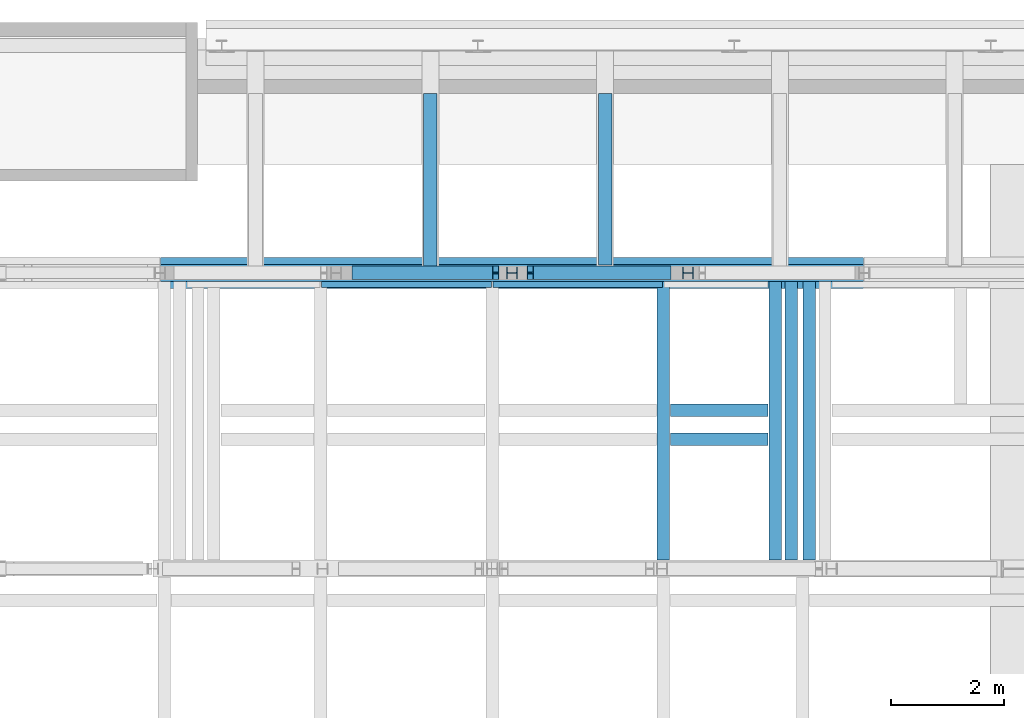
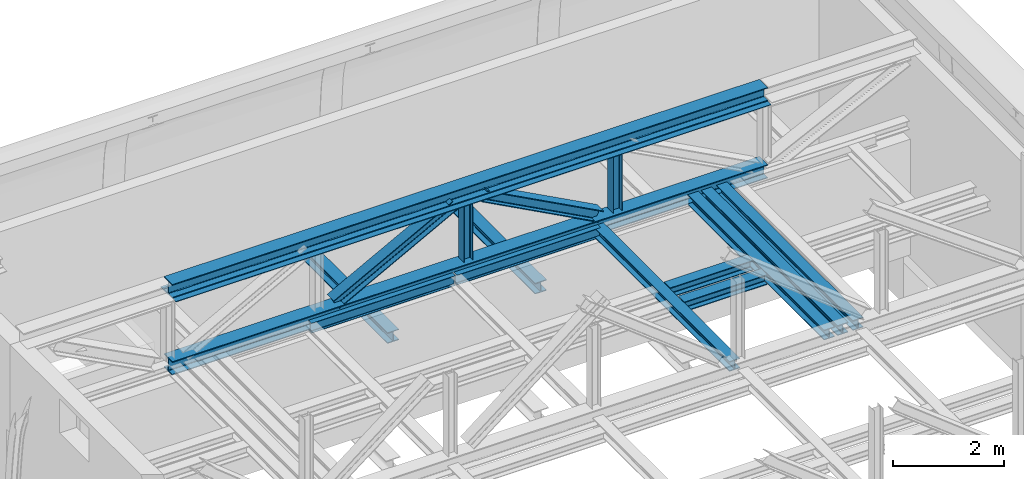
# One storey, part 22 of 29: 16 beams.
"""IFC2X3 building model written with IfcOpenShell, lengths in millimetres."""

from ifc_helpers import new_model, entity, si_unit, converted_unit, derived_unit, direction, frame, frame_2d, origin, place, context, subcontext, project, spatial, polyline, circle_curve, parameter, trimmed, segment, composite_curve, rectangle, i_section, outline, extrude, source, transform, mapped, material, material_list, type_object, type_shapes, element, save


model = new_model("IFC2X3")

# Units and contexts
model_context = context("Model", 3, precision=0.01, world=origin(), true_north=direction((6.12303176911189e-17, 1.0)))
body_context = subcontext(model_context, "Body", "Model", "MODEL_VIEW")
ifc_project = project(units=[si_unit("LENGTHUNIT", "METRE", prefix="MILLI"), si_unit("AREAUNIT", "SQUARE_METRE", prefix="MILLI"), si_unit("VOLUMEUNIT", "CUBIC_METRE"), converted_unit("PLANEANGLEUNIT", "DEGREE", entity("IfcRatioMeasure", 0.0174532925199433), si_unit("PLANEANGLEUNIT", "RADIAN"), dimensions=[0, 0, 0, 0, 0, 0, 0]), si_unit("MASSUNIT", "GRAM", prefix="KILO"), derived_unit("MASSDENSITYUNIT", [(si_unit("MASSUNIT", "GRAM", prefix="KILO"), 1), (si_unit("LENGTHUNIT", "METRE"), -3)]), derived_unit("MOMENTOFINERTIAUNIT", [(si_unit("LENGTHUNIT", "METRE"), 4)]), si_unit("TIMEUNIT", "SECOND"), si_unit("FREQUENCYUNIT", "HERTZ"), si_unit("THERMODYNAMICTEMPERATUREUNIT", "DEGREE_CELSIUS"), derived_unit("THERMALTRANSMITTANCEUNIT", [(si_unit("MASSUNIT", "GRAM", prefix="KILO"), 1), (si_unit("THERMODYNAMICTEMPERATUREUNIT", "KELVIN"), -1), (si_unit("TIMEUNIT", "SECOND"), -3)]), derived_unit("VOLUMETRICFLOWRATEUNIT", [(si_unit("LENGTHUNIT", "METRE"), 3), (si_unit("TIMEUNIT", "SECOND"), -1)]), si_unit("ELECTRICCURRENTUNIT", "AMPERE"), si_unit("ELECTRICVOLTAGEUNIT", "VOLT"), si_unit("POWERUNIT", "WATT"), si_unit("FORCEUNIT", "NEWTON", prefix="KILO"), si_unit("ILLUMINANCEUNIT", "LUX"), si_unit("LUMINOUSFLUXUNIT", "LUMEN"), si_unit("LUMINOUSINTENSITYUNIT", "CANDELA"), derived_unit("USERDEFINED", [(si_unit("MASSUNIT", "GRAM", prefix="KILO"), -1), (si_unit("LENGTHUNIT", "METRE"), -2), (si_unit("TIMEUNIT", "SECOND"), 3), (si_unit("LUMINOUSFLUXUNIT", "LUMEN"), 1)]), derived_unit("LINEARVELOCITYUNIT", [(si_unit("LENGTHUNIT", "METRE"), 1), (si_unit("TIMEUNIT", "SECOND"), -1)]), si_unit("PRESSUREUNIT", "PASCAL"), derived_unit("USERDEFINED", [(si_unit("LENGTHUNIT", "METRE"), -2), (si_unit("MASSUNIT", "GRAM", prefix="KILO"), 1), (si_unit("TIMEUNIT", "SECOND"), -2)]), derived_unit("LINEARFORCEUNIT", [(si_unit("MASSUNIT", "GRAM", prefix="KILO"), 1), (si_unit("LENGTHUNIT", "METRE"), 1), (si_unit("TIMEUNIT", "SECOND"), -2), (si_unit("LENGTHUNIT", "METRE"), -1)]), derived_unit("PLANARFORCEUNIT", [(si_unit("MASSUNIT", "GRAM", prefix="KILO"), 1), (si_unit("LENGTHUNIT", "METRE"), 1), (si_unit("TIMEUNIT", "SECOND"), -2), (si_unit("LENGTHUNIT", "METRE"), -2)])], contexts=[model_context])

# Site, building, storey
site_placement = place(None, origin())
site = spatial("IfcSite", under=ifc_project, at=site_placement, Name="Theater aan de Parade", CompositionType="ELEMENT")
building_placement = place(site_placement, origin())
building = spatial("IfcBuilding", under=site, at=building_placement, Name="Theater aan de Parade", CompositionType="ELEMENT")
storey_placement = place(building_placement, frame((0.0, 0.0, 20300.0)))
storey = spatial("IfcBuildingStorey", under=building, at=storey_placement, Name="05 vijfde verdieping", CompositionType="ELEMENT", Elevation=20300.0)

# Beams
ifc_material_1 = material(Name="00_PBT_MAT_staal_S355")
beam_type_1 = type_object("IfcBeamType", Name="28_PBT_SF_staal_H-profiel:S355_HE220B", PredefinedType="NOTDEFINED")
beam_1_placement = place(storey_placement, frame((79535.461881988, 40060.0, 0.0), z_axis=(0.0, 0.0, 1.0), x_axis=(0.0, 1.0, 0.0)))
element("IfcBeam", 1, at=beam_1_placement, inside=storey, type_object=beam_type_1, material=ifc_material_1, Name="28_PBT_SF_staal_H-profiel:S355_HE220B", ObjectType="28_PBT_SF_staal_H-profiel:S355_HE220B", context=body_context, shape_type="SweptSolid", body=[
    extrude(outline(composite_curve([segment(polyline([(94.0, -110.0), (110.0, -110.0)]), True, "CONTINUOUS"), segment(polyline([(110.0, -110.0), (110.0, 110.0)]), True, "CONTINUOUS"), segment(polyline([(110.0, 110.0), (94.0, 110.0)]), True, "CONTINUOUS"), segment(polyline([(94.0, 110.0), (94.0, 22.7500000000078)]), True, "CONTINUOUS"), segment(trimmed(circle_curve(frame_2d((76.0, 22.7500000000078), x_axis=(1.0, 0.0)), 17.9999999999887), [parameter(269.999999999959)], [parameter(0.0)], True, "PARAMETER"), False, "CONTINUOUS"), segment(polyline([(76.0, 4.74999999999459), (-76.0, 4.74999999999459)]), True, "CONTINUOUS"), segment(trimmed(circle_curve(frame_2d((-76.0, 22.7500000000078), x_axis=(0.0, -1.0)), 17.9999999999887), [parameter(269.999999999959)], [parameter(0.0)], True, "PARAMETER"), False, "CONTINUOUS"), segment(polyline([(-94.0, 22.7500000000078), (-94.0, 110.0)]), True, "CONTINUOUS"), segment(polyline([(-94.0, 110.0), (-110.0, 110.0)]), True, "CONTINUOUS"), segment(polyline([(-110.0, 110.0), (-110.0, -110.0)]), True, "CONTINUOUS"), segment(polyline([(-110.0, -110.0), (-94.0, -110.0)]), True, "CONTINUOUS"), segment(polyline([(-94.0, -110.0), (-94.0, -22.7499999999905)]), True, "CONTINUOUS"), segment(trimmed(circle_curve(frame_2d((-76.0, -22.7499999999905), x_axis=(-1.0, 0.0)), 17.9999999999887), [parameter(269.999999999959)], [parameter(0.0)], True, "PARAMETER"), False, "CONTINUOUS"), segment(polyline([(-76.0, -4.74999999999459), (76.0, -4.74999999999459)]), True, "CONTINUOUS"), segment(trimmed(circle_curve(frame_2d((76.0, -22.7499999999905), x_axis=(0.0, 1.0)), 17.9999999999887), [parameter(269.999999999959)], [parameter(0.0)], True, "PARAMETER"), False, "CONTINUOUS"), segment(polyline([(94.0, -22.7499999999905), (94.0, -110.0)]), True, "CONTINUOUS")], self_intersect=False)), frame((0.0, 0.0, 2360.0), z_axis=(1.0, 0.0, 0.0), x_axis=(0.0, 0.0, -1.0)), (0.0, 0.0, 1.0), 4925.00000000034),
])
beam_2_placement = place(storey_placement, frame((81790.0, 40060.0, 0.0), z_axis=(0.0, 0.0, 1.0), x_axis=(0.0, 1.0, 0.0)))
element("IfcBeam", 2, at=beam_2_placement, inside=storey, type_object=beam_type_1, material=ifc_material_1, Name="28_PBT_SF_staal_H-profiel:S355_HE220B", ObjectType="28_PBT_SF_staal_H-profiel:S355_HE220B", context=body_context, shape_type="SweptSolid", body=[
    extrude(outline(composite_curve([segment(polyline([(94.0, -110.0), (110.0, -110.0)]), True, "CONTINUOUS"), segment(polyline([(110.0, -110.0), (110.0, 110.0)]), True, "CONTINUOUS"), segment(polyline([(110.0, 110.0), (94.0, 110.0)]), True, "CONTINUOUS"), segment(polyline([(94.0, 110.0), (94.0, 22.7500000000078)]), True, "CONTINUOUS"), segment(trimmed(circle_curve(frame_2d((76.0, 22.7500000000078), x_axis=(1.0, 0.0)), 17.9999999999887), [parameter(269.999999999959)], [parameter(0.0)], True, "PARAMETER"), False, "CONTINUOUS"), segment(polyline([(76.0, 4.74999999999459), (-76.0, 4.74999999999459)]), True, "CONTINUOUS"), segment(trimmed(circle_curve(frame_2d((-76.0, 22.7500000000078), x_axis=(0.0, -1.0)), 17.9999999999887), [parameter(269.999999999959)], [parameter(0.0)], True, "PARAMETER"), False, "CONTINUOUS"), segment(polyline([(-94.0, 22.7500000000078), (-94.0, 110.0)]), True, "CONTINUOUS"), segment(polyline([(-94.0, 110.0), (-110.0, 110.0)]), True, "CONTINUOUS"), segment(polyline([(-110.0, 110.0), (-110.0, -110.0)]), True, "CONTINUOUS"), segment(polyline([(-110.0, -110.0), (-94.0, -110.0)]), True, "CONTINUOUS"), segment(polyline([(-94.0, -110.0), (-94.0, -22.7499999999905)]), True, "CONTINUOUS"), segment(trimmed(circle_curve(frame_2d((-76.0, -22.7499999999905), x_axis=(-1.0, 0.0)), 17.9999999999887), [parameter(269.999999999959)], [parameter(0.0)], True, "PARAMETER"), False, "CONTINUOUS"), segment(polyline([(-76.0, -4.74999999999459), (76.0, -4.74999999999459)]), True, "CONTINUOUS"), segment(trimmed(circle_curve(frame_2d((76.0, -22.7499999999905), x_axis=(0.0, 1.0)), 17.9999999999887), [parameter(269.999999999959)], [parameter(0.0)], True, "PARAMETER"), False, "CONTINUOUS"), segment(polyline([(94.0, -22.7499999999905), (94.0, -110.0)]), True, "CONTINUOUS")], self_intersect=False)), frame((0.0, 0.0, 2360.0), z_axis=(1.0, 0.0, 0.0), x_axis=(0.0, 0.0, -1.0)), (0.0, 0.0, 1.0), 4925.00000000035),
])
beam_3_placement = place(storey_placement, frame((81510.0, 42712.5000000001, 0.0), z_axis=(0.0, 0.0, 1.0), x_axis=(-1.0, 0.0, 0.0)))
element("IfcBeam", 3, at=beam_3_placement, inside=storey, type_object=beam_type_1, material=ifc_material_1, Name="28_PBT_SF_staal_H-profiel:S355_HE220B", ObjectType="28_PBT_SF_staal_H-profiel:S355_HE220B", context=body_context, shape_type="SweptSolid", body=[
    extrude(outline(composite_curve([segment(polyline([(94.0, -110.0), (110.0, -110.0)]), True, "CONTINUOUS"), segment(polyline([(110.0, -110.0), (110.0, 110.0)]), True, "CONTINUOUS"), segment(polyline([(110.0, 110.0), (94.0, 110.0)]), True, "CONTINUOUS"), segment(polyline([(94.0, 110.0), (94.0, 22.7500000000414)]), True, "CONTINUOUS"), segment(trimmed(circle_curve(frame_2d((76.0, 22.7500000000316), x_axis=(1.0, 0.0)), 17.9999999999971), [parameter(269.999999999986)], [parameter(0.0)], True, "PARAMETER"), False, "CONTINUOUS"), segment(polyline([(76.0, 4.7500000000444), (-76.0, 4.74999999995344)]), True, "CONTINUOUS"), segment(trimmed(circle_curve(frame_2d((-76.0, 22.7499999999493), x_axis=(0.0, -1.0)), 17.9999999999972), [parameter(269.999999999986)], [parameter(0.0)], True, "PARAMETER"), False, "CONTINUOUS"), segment(polyline([(-94.0, 22.7499999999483), (-94.0, 110.0)]), True, "CONTINUOUS"), segment(polyline([(-94.0, 110.0), (-110.0, 110.0)]), True, "CONTINUOUS"), segment(polyline([(-110.0, 110.0), (-110.0, -110.0)]), True, "CONTINUOUS"), segment(polyline([(-110.0, -110.0), (-94.0, -110.0)]), True, "CONTINUOUS"), segment(polyline([(-94.0, -110.0), (-94.0, -22.7500000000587)]), True, "CONTINUOUS"), segment(trimmed(circle_curve(frame_2d((-76.0, -22.750000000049), x_axis=(-1.0, 0.0)), 17.9999999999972), [parameter(269.999999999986)], [parameter(0.0)], True, "PARAMETER"), False, "CONTINUOUS"), segment(polyline([(-76.0, -4.75000000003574), (76.0, -4.7499999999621)]), True, "CONTINUOUS"), segment(trimmed(circle_curve(frame_2d((76.0, -22.7499999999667), x_axis=(0.0, 1.0)), 17.9999999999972), [parameter(269.999999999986)], [parameter(0.0)], True, "PARAMETER"), False, "CONTINUOUS"), segment(polyline([(94.0, -22.7499999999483), (94.0, -110.0)]), True, "CONTINUOUS")], self_intersect=False)), frame((122.699999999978, 0.0, 2360.0), z_axis=(1.0, 0.0, 0.0), x_axis=(0.0, 0.0, -1.0)), (0.0, 0.0, 1.0), 1729.13811801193),
])
beam_4_placement = place(storey_placement, frame((81510.0, 42198.4998000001, 0.0), z_axis=(0.0, 0.0, 1.0), x_axis=(-1.0, 0.0, 0.0)))
element("IfcBeam", 4, at=beam_4_placement, inside=storey, type_object=beam_type_1, material=ifc_material_1, Name="28_PBT_SF_staal_H-profiel:S355_HE220B", ObjectType="28_PBT_SF_staal_H-profiel:S355_HE220B", context=body_context, shape_type="SweptSolid", body=[
    extrude(outline(composite_curve([segment(polyline([(94.0, -110.0), (110.0, -110.0)]), True, "CONTINUOUS"), segment(polyline([(110.0, -110.0), (110.0, 110.0)]), True, "CONTINUOUS"), segment(polyline([(110.0, 110.0), (94.0, 110.0)]), True, "CONTINUOUS"), segment(polyline([(94.0, 110.0), (94.0, 22.7500000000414)]), True, "CONTINUOUS"), segment(trimmed(circle_curve(frame_2d((76.0, 22.7500000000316), x_axis=(1.0, 0.0)), 17.9999999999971), [parameter(269.999999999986)], [parameter(0.0)], True, "PARAMETER"), False, "CONTINUOUS"), segment(polyline([(76.0, 4.7500000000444), (-76.0, 4.74999999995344)]), True, "CONTINUOUS"), segment(trimmed(circle_curve(frame_2d((-76.0, 22.7499999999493), x_axis=(0.0, -1.0)), 17.9999999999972), [parameter(269.999999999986)], [parameter(0.0)], True, "PARAMETER"), False, "CONTINUOUS"), segment(polyline([(-94.0, 22.7499999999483), (-94.0, 110.0)]), True, "CONTINUOUS"), segment(polyline([(-94.0, 110.0), (-110.0, 110.0)]), True, "CONTINUOUS"), segment(polyline([(-110.0, 110.0), (-110.0, -110.0)]), True, "CONTINUOUS"), segment(polyline([(-110.0, -110.0), (-94.0, -110.0)]), True, "CONTINUOUS"), segment(polyline([(-94.0, -110.0), (-94.0, -22.7500000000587)]), True, "CONTINUOUS"), segment(trimmed(circle_curve(frame_2d((-76.0, -22.750000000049), x_axis=(-1.0, 0.0)), 17.9999999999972), [parameter(269.999999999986)], [parameter(0.0)], True, "PARAMETER"), False, "CONTINUOUS"), segment(polyline([(-76.0, -4.75000000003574), (76.0, -4.7499999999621)]), True, "CONTINUOUS"), segment(trimmed(circle_curve(frame_2d((76.0, -22.7499999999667), x_axis=(0.0, 1.0)), 17.9999999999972), [parameter(269.999999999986)], [parameter(0.0)], True, "PARAMETER"), False, "CONTINUOUS"), segment(polyline([(94.0, -22.7499999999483), (94.0, -110.0)]), True, "CONTINUOUS")], self_intersect=False)), frame((122.699999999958, 0.0, 2360.0), z_axis=(1.0, 0.0, 0.0), x_axis=(0.0, 0.0, -1.0)), (0.0, 0.0, 1.0), 1729.13811801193),
])
beam_5_placement = place(storey_placement, frame((81510.0, 40060.0, 0.0), z_axis=(0.0, 0.0, 1.0), x_axis=(0.0, 1.0, 0.0)))
element("IfcBeam", 5, at=beam_5_placement, inside=storey, type_object=beam_type_1, material=ifc_material_1, Name="28_PBT_SF_staal_H-profiel:S355_HE220B", ObjectType="28_PBT_SF_staal_H-profiel:S355_HE220B", context=body_context, shape_type="SweptSolid", body=[
    extrude(outline(composite_curve([segment(polyline([(94.0, -110.0), (110.0, -110.0)]), True, "CONTINUOUS"), segment(polyline([(110.0, -110.0), (110.0, 110.0)]), True, "CONTINUOUS"), segment(polyline([(110.0, 110.0), (94.0, 110.0)]), True, "CONTINUOUS"), segment(polyline([(94.0, 110.0), (94.0, 22.7499999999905)]), True, "CONTINUOUS"), segment(trimmed(circle_curve(frame_2d((76.0, 22.7499999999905), x_axis=(1.0, 0.0)), 17.9999999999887), [parameter(269.999999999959)], [parameter(0.0)], True, "PARAMETER"), False, "CONTINUOUS"), segment(polyline([(76.0, 4.74999999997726), (-76.0, 4.74999999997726)]), True, "CONTINUOUS"), segment(trimmed(circle_curve(frame_2d((-76.0, 22.7499999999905), x_axis=(0.0, -1.0)), 17.9999999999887), [parameter(269.999999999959)], [parameter(0.0)], True, "PARAMETER"), False, "CONTINUOUS"), segment(polyline([(-94.0, 22.7499999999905), (-94.0, 110.0)]), True, "CONTINUOUS"), segment(polyline([(-94.0, 110.0), (-110.0, 110.0)]), True, "CONTINUOUS"), segment(polyline([(-110.0, 110.0), (-110.0, -110.0)]), True, "CONTINUOUS"), segment(polyline([(-110.0, -110.0), (-94.0, -110.0)]), True, "CONTINUOUS"), segment(polyline([(-94.0, -110.0), (-94.0, -22.7500000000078)]), True, "CONTINUOUS"), segment(trimmed(circle_curve(frame_2d((-76.0, -22.7500000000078), x_axis=(-1.0, 0.0)), 17.9999999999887), [parameter(269.999999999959)], [parameter(0.0)], True, "PARAMETER"), False, "CONTINUOUS"), segment(polyline([(-76.0, -4.75000000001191), (76.0, -4.75000000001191)]), True, "CONTINUOUS"), segment(trimmed(circle_curve(frame_2d((76.0, -22.7500000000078), x_axis=(0.0, 1.0)), 17.9999999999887), [parameter(269.999999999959)], [parameter(0.0)], True, "PARAMETER"), False, "CONTINUOUS"), segment(polyline([(94.0, -22.7500000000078), (94.0, -110.0)]), True, "CONTINUOUS")], self_intersect=False)), frame((0.0, 0.0, 2360.0), z_axis=(1.0, 0.0, 0.0), x_axis=(0.0, 0.0, -1.0)), (0.0, 0.0, 1.0), 4925.00000000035),
])
beam_6_placement = place(storey_placement, frame((82110.0, 40060.0, 0.0), z_axis=(0.0, 0.0, 1.0), x_axis=(0.0, 1.0, 0.0)))
element("IfcBeam", 6, at=beam_6_placement, inside=storey, type_object=beam_type_1, material=ifc_material_1, Name="28_PBT_SF_staal_H-profiel:S355_HE220B", ObjectType="28_PBT_SF_staal_H-profiel:S355_HE220B", context=body_context, shape_type="SweptSolid", body=[
    extrude(outline(composite_curve([segment(polyline([(94.0, -110.0), (110.0, -110.0)]), True, "CONTINUOUS"), segment(polyline([(110.0, -110.0), (110.0, 110.0)]), True, "CONTINUOUS"), segment(polyline([(110.0, 110.0), (94.0, 110.0)]), True, "CONTINUOUS"), segment(polyline([(94.0, 110.0), (94.0, 22.7499999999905)]), True, "CONTINUOUS"), segment(trimmed(circle_curve(frame_2d((76.0, 22.7499999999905), x_axis=(1.0, 0.0)), 17.9999999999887), [parameter(269.999999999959)], [parameter(0.0)], True, "PARAMETER"), False, "CONTINUOUS"), segment(polyline([(76.0, 4.74999999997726), (-76.0, 4.74999999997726)]), True, "CONTINUOUS"), segment(trimmed(circle_curve(frame_2d((-76.0, 22.7499999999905), x_axis=(0.0, -1.0)), 17.9999999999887), [parameter(269.999999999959)], [parameter(0.0)], True, "PARAMETER"), False, "CONTINUOUS"), segment(polyline([(-94.0, 22.7499999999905), (-94.0, 110.0)]), True, "CONTINUOUS"), segment(polyline([(-94.0, 110.0), (-110.0, 110.0)]), True, "CONTINUOUS"), segment(polyline([(-110.0, 110.0), (-110.0, -110.0)]), True, "CONTINUOUS"), segment(polyline([(-110.0, -110.0), (-94.0, -110.0)]), True, "CONTINUOUS"), segment(polyline([(-94.0, -110.0), (-94.0, -22.7500000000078)]), True, "CONTINUOUS"), segment(trimmed(circle_curve(frame_2d((-76.0, -22.7500000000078), x_axis=(-1.0, 0.0)), 17.9999999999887), [parameter(269.999999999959)], [parameter(0.0)], True, "PARAMETER"), False, "CONTINUOUS"), segment(polyline([(-76.0, -4.75000000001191), (76.0, -4.75000000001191)]), True, "CONTINUOUS"), segment(trimmed(circle_curve(frame_2d((76.0, -22.7500000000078), x_axis=(0.0, 1.0)), 17.9999999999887), [parameter(269.999999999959)], [parameter(0.0)], True, "PARAMETER"), False, "CONTINUOUS"), segment(polyline([(94.0, -22.7500000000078), (94.0, -110.0)]), True, "CONTINUOUS")], self_intersect=False)), frame((0.0, 0.0, 2360.0), z_axis=(1.0, 0.0, 0.0), x_axis=(0.0, 0.0, -1.0)), (0.0, 0.0, 1.0), 4925.00000000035),
])
beam_type_2 = type_object("IfcBeamType", Name="28_PBT_SF_staal_H-profiel:S355_HE300B", PredefinedType="NOTDEFINED")
beam_7_placement = place(storey_placement, frame((70641.2561009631, 45135.0, 2400.0)))
element("IfcBeam", 7, at=beam_7_placement, inside=storey, type_object=beam_type_2, material=ifc_material_1, Name="28_PBT_SF_staal_H-profiel:S355_HE300B", ObjectType="28_PBT_SF_staal_H-profiel:S355_HE300B", context=body_context, shape_type="SweptSolid", body=[
    extrude(i_section(OverallWidth=300.000000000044, OverallDepth=300.000000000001, WebThickness=10.9999999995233, FlangeThickness=19.0, FilletRadius=26.9999999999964, at=frame_2d((-4.33431068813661e-12, -8.65441052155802e-12), x_axis=(0.0, 1.0))), frame((12.7000006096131, 0.0, 0.0), z_axis=(1.0, 0.0, 0.0), x_axis=(0.0, 0.0, -1.0)), (0.0, 0.0, 1.0), 12414.5999987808),
])
beam_type_3 = type_object("IfcBeamType", Name="28_PBT_SF_staal_H-profiel:S355_HE200A", PredefinedType="NOTDEFINED")
beam_8_placement = place(storey_placement, frame((76861.2561009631, 45135.0, 2400.0), z_axis=(1.0, 0.0, 0.0), x_axis=(0.0, 0.0, 1.0)))
element("IfcBeam", 8, at=beam_8_placement, inside=storey, type_object=beam_type_3, material=ifc_material_1, Name="28_PBT_SF_staal_H-profiel:S355_HE200A", ObjectType="28_PBT_SF_staal_H-profiel:S355_HE200A", context=body_context, shape_type="SweptSolid", body=[
    extrude(i_section(OverallWidth=199.999999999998, OverallDepth=190.0, WebThickness=6.49999999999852, FlangeThickness=9.99999999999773, FilletRadius=17.9999999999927, at=frame_2d((4.33431068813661e-12, 4.33431068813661e-12), x_axis=(0.0, 1.0))), frame((162.699999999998, 0.0, 0.0), z_axis=(1.0, 0.0, 0.0), x_axis=(0.0, 0.0, -1.0)), (0.0, 0.0, 1.0), 1300.24657066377),
])
beam_9_placement = place(storey_placement, frame((79971.2561009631, 45135.0, 2400.0), z_axis=(1.0, 0.0, 0.0), x_axis=(0.0, 0.0, 1.0)))
element("IfcBeam", 9, at=beam_9_placement, inside=storey, type_object=beam_type_3, material=ifc_material_1, Name="28_PBT_SF_staal_H-profiel:S355_HE200A", ObjectType="28_PBT_SF_staal_H-profiel:S355_HE200A", context=body_context, shape_type="SweptSolid", body=[
    extrude(i_section(OverallWidth=199.999999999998, OverallDepth=189.999999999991, WebThickness=6.49999999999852, FlangeThickness=9.99999999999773, FilletRadius=17.9999999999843, at=frame_2d((0.0, 4.33431068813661e-12), x_axis=(0.0, 1.0))), frame((162.699999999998, 0.0, 0.0), z_axis=(1.0, 0.0, 0.0), x_axis=(0.0, 0.0, -1.0)), (0.0, 0.0, 1.0), 1300.24657066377),
])
beam_type_4 = type_object("IfcBeamType", Name="28_PBT_SF_staal_H-profiel:S355_HE240B", PredefinedType="NOTDEFINED")
beam_10_placement = place(storey_placement, frame((76861.2561009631, 45135.0, 4062.5), z_axis=(0.471434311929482, 0.0, 0.88190117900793), x_axis=(0.88190117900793, 0.0, -0.471434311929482)))
element("IfcBeam", 10, at=beam_10_placement, inside=storey, type_object=beam_type_4, material=ifc_material_1, Name="28_PBT_SF_staal_H-profiel:S355_HE240B", ObjectType="28_PBT_SF_staal_H-profiel:S355_HE240B", context=body_context, shape_type="SweptSolid", body=[
    extrude(i_section(OverallWidth=239.999999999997, OverallDepth=239.999999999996, WebThickness=9.99999999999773, FlangeThickness=16.9999999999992, FilletRadius=21.0000000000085, at=frame_2d((1.91135995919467e-12, -8.66151594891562e-12), x_axis=(0.0, 1.0))), frame((362.510289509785, 0.0, 0.0), z_axis=(1.0, 0.0, 0.0), x_axis=(0.0, 0.0, -1.0)), (0.0, 0.0, 1.0), 2754.41443883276),
])
beam_11_placement = place(storey_placement, frame((73751.2561009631, 45135.0, 2400.0), z_axis=(-0.471434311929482, 0.0, 0.88190117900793), x_axis=(0.88190117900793, 0.0, 0.471434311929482)))
element("IfcBeam", 11, at=beam_11_placement, inside=storey, type_object=beam_type_4, material=ifc_material_1, Name="28_PBT_SF_staal_H-profiel:S355_HE240B", ObjectType="28_PBT_SF_staal_H-profiel:S355_HE240B", context=body_context, shape_type="SweptSolid", body=[
    extrude(i_section(OverallWidth=239.999999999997, OverallDepth=239.999999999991, WebThickness=9.99999999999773, FlangeThickness=16.9999999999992, FilletRadius=21.0000000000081, at=frame_2d((-5.86197757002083e-12, -8.66151594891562e-12), x_axis=(0.0, 1.0))), frame((389.407106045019, 0.0, 0.0), z_axis=(1.0, 0.0, 0.0), x_axis=(0.0, 0.0, -1.0)), (0.0, 0.0, 1.0), 2812.03857849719),
])
beam_12_placement = place(storey_placement, frame((78505.4885583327, 48302.0, 0.0), z_axis=(0.0, 0.0, 1.0), x_axis=(0.0, -1.0, 0.0)))
element("IfcBeam", 12, at=beam_12_placement, inside=storey, type_object=beam_type_4, material=ifc_material_1, Name="28_PBT_SF_staal_H-profiel:S355_HE240B", ObjectType="28_PBT_SF_staal_H-profiel:S355_HE240B", context=body_context, shape_type="SweptSolid", body=[
    extrude(i_section(OverallWidth=239.999999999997, OverallDepth=239.999999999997, WebThickness=9.99999999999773, FlangeThickness=17.0000000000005, FilletRadius=20.9999999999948, at=frame_2d((-4.33431068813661e-12, -8.66151594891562e-12), x_axis=(0.0, 1.0))), frame((0.0, 0.0, 1275.0), z_axis=(1.0, 0.0, 0.0), x_axis=(0.0, 0.0, -1.0)), (0.0, 0.0, 1.0), 3026.9999999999),
])
beam_13_placement = place(storey_placement, frame((75418.4504512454, 48302.0, 0.0), z_axis=(0.0, 0.0, 1.0), x_axis=(0.0, -1.0, 0.0)))
element("IfcBeam", 13, at=beam_13_placement, inside=storey, type_object=beam_type_4, material=ifc_material_1, Name="28_PBT_SF_staal_H-profiel:S355_HE240B", ObjectType="28_PBT_SF_staal_H-profiel:S355_HE240B", context=body_context, shape_type="SweptSolid", body=[
    extrude(outline(composite_curve([segment(polyline([(103.0, -120.0), (120.0, -120.0)]), True, "CONTINUOUS"), segment(polyline([(120.0, -120.0), (120.0, 120.0)]), True, "CONTINUOUS"), segment(polyline([(120.0, 120.0), (103.0, 120.0)]), True, "CONTINUOUS"), segment(polyline([(103.0, 120.0), (103.0, 26.0)]), True, "CONTINUOUS"), segment(trimmed(circle_curve(frame_2d((82.0, 26.0), x_axis=(1.0, 0.0)), 21.0000000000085), [parameter(270.000000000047)], [parameter(0.0)], True, "PARAMETER"), False, "CONTINUOUS"), segment(polyline([(82.0, 5.0), (-82.0, 5.0)]), True, "CONTINUOUS"), segment(trimmed(circle_curve(frame_2d((-82.0, 26.0), x_axis=(0.0, -1.0)), 21.0000000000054), [parameter(270.000000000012)], [parameter(0.0)], True, "PARAMETER"), False, "CONTINUOUS"), segment(polyline([(-103.0, 26.0), (-103.0, 120.0)]), True, "CONTINUOUS"), segment(polyline([(-103.0, 120.0), (-120.0, 120.0)]), True, "CONTINUOUS"), segment(polyline([(-120.0, 120.0), (-120.0, -120.0)]), True, "CONTINUOUS"), segment(polyline([(-120.0, -120.0), (-103.0, -120.0)]), True, "CONTINUOUS"), segment(polyline([(-103.0, -120.0), (-103.0, -26.0)]), True, "CONTINUOUS"), segment(trimmed(circle_curve(frame_2d((-82.0, -26.0), x_axis=(-1.0, 0.0)), 21.0000000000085), [parameter(270.000000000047)], [parameter(0.0)], True, "PARAMETER"), False, "CONTINUOUS"), segment(polyline([(-82.0, -5.0), (82.0, -5.0)]), True, "CONTINUOUS"), segment(trimmed(circle_curve(frame_2d((82.0, -26.0), x_axis=(0.0, 1.0)), 21.0000000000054), [parameter(270.000000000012)], [parameter(0.0)], True, "PARAMETER"), False, "CONTINUOUS"), segment(polyline([(103.0, -26.0), (103.0, -120.0)]), True, "CONTINUOUS")], self_intersect=False)), frame((0.0, 0.0, 1275.0), z_axis=(1.0, 0.0, 0.0), x_axis=(0.0, 0.0, -1.0)), (0.0, 0.0, 1.0), 3041.99999999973),
])
beam_type_5 = type_object("IfcBeamType", Name="28_PBT_SF_staal_IPE-profiel:S355_IPE220", PredefinedType="NOTDEFINED")
beam_14_placement = place(storey_placement, frame((76509.4104367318, 44930.0, 0.0), z_axis=(0.0, 0.0, 1.0), x_axis=(-1.0, 0.0, 0.0)))
element("IfcBeam", 14, at=beam_14_placement, inside=storey, type_object=beam_type_5, material=ifc_material_1, Name="28_PBT_SF_staal_IPE-profiel:S355_IPE220", ObjectType="28_PBT_SF_staal_IPE-profiel:S355_IPE220", context=body_context, shape_type="SweptSolid", body=[
    extrude(outline(composite_curve([segment(polyline([(100.800000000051, -55.0), (110.0, -55.0)]), True, "CONTINUOUS"), segment(polyline([(110.0, -55.0), (110.0, 55.0)]), True, "CONTINUOUS"), segment(polyline([(110.0, 55.0), (100.799999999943, 55.0)]), True, "CONTINUOUS"), segment(polyline([(100.799999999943, 55.0), (100.799999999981, 14.9500000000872)]), True, "CONTINUOUS"), segment(trimmed(circle_curve(frame_2d((88.7999999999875, 14.9500000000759), x_axis=(1.0, 0.0)), 11.9999999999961), [parameter(269.999999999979)], [parameter(0.0)], True, "PARAMETER"), False, "CONTINUOUS"), segment(polyline([(88.7999999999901, 2.95000000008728), (-88.8000000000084, 2.94999999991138)]), True, "CONTINUOUS"), segment(trimmed(circle_curve(frame_2d((-88.8000000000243, 14.9499999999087), x_axis=(0.0, -1.0)), 11.9999999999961), [parameter(269.999999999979)], [parameter(0.0)], True, "PARAMETER"), False, "CONTINUOUS"), segment(polyline([(-100.800000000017, 14.949999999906), (-100.800000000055, 55.0)]), True, "CONTINUOUS"), segment(polyline([(-100.800000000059, 55.0), (-110.0, 55.0)]), True, "CONTINUOUS"), segment(polyline([(-110.0, 55.0), (-110.0, -55.0)]), True, "CONTINUOUS"), segment(polyline([(-110.0, -55.0), (-100.799999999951, -55.0)]), True, "CONTINUOUS"), segment(polyline([(-100.799999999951, -55.0), (-100.799999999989, -14.9500000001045)]), True, "CONTINUOUS"), segment(trimmed(circle_curve(frame_2d((-88.7999999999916, -14.9500000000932), x_axis=(-1.0, 0.0)), 11.9999999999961), [parameter(269.999999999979)], [parameter(0.0)], True, "PARAMETER"), False, "CONTINUOUS"), segment(polyline([(-88.7999999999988, -2.95000000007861), (88.8000000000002, -2.94999999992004)]), True, "CONTINUOUS"), segment(trimmed(circle_curve(frame_2d((88.8000000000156, -14.949999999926), x_axis=(0.0, 1.0)), 11.9999999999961), [parameter(269.999999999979)], [parameter(0.0)], True, "PARAMETER"), False, "CONTINUOUS"), segment(polyline([(100.800000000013, -14.9499999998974), (100.800000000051, -55.0)]), True, "CONTINUOUS")], self_intersect=False)), frame((12.700000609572, 0.0, 2360.0), z_axis=(1.0, 0.0, 0.0), x_axis=(0.0, 0.0, -1.0)), (0.0, 0.0, 1.0), 3000.6514440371),
])
beam_15_placement = place(storey_placement, frame((79535.4618819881, 44930.0, 0.0), z_axis=(0.0, 0.0, 1.0), x_axis=(-1.0, 0.0, 0.0)))
element("IfcBeam", 15, at=beam_15_placement, inside=storey, type_object=beam_type_5, material=ifc_material_1, Name="28_PBT_SF_staal_IPE-profiel:S355_IPE220", ObjectType="28_PBT_SF_staal_IPE-profiel:S355_IPE220", context=body_context, shape_type="SweptSolid", body=[
    extrude(outline(composite_curve([segment(polyline([(100.800000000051, -55.0), (110.0, -55.0)]), True, "CONTINUOUS"), segment(polyline([(110.0, -55.0), (110.0, 55.0)]), True, "CONTINUOUS"), segment(polyline([(110.0, 55.0), (100.799999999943, 55.0)]), True, "CONTINUOUS"), segment(polyline([(100.799999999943, 55.0), (100.799999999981, 14.9500000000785)]), True, "CONTINUOUS"), segment(trimmed(circle_curve(frame_2d((88.7999999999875, 14.9500000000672), x_axis=(1.0, 0.0)), 11.9999999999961), [parameter(269.999999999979)], [parameter(0.0)], True, "PARAMETER"), False, "CONTINUOUS"), segment(polyline([(88.7999999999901, 2.95000000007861), (-88.8000000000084, 2.94999999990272)]), True, "CONTINUOUS"), segment(trimmed(circle_curve(frame_2d((-88.8000000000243, 14.9499999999), x_axis=(0.0, -1.0)), 11.9999999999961), [parameter(269.999999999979)], [parameter(0.0)], True, "PARAMETER"), False, "CONTINUOUS"), segment(polyline([(-100.800000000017, 14.9499999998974), (-100.800000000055, 55.0)]), True, "CONTINUOUS"), segment(polyline([(-100.800000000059, 55.0), (-110.0, 55.0)]), True, "CONTINUOUS"), segment(polyline([(-110.0, 55.0), (-110.0, -55.0)]), True, "CONTINUOUS"), segment(polyline([(-110.0, -55.0), (-100.799999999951, -55.0)]), True, "CONTINUOUS"), segment(polyline([(-100.799999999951, -55.0), (-100.799999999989, -14.9500000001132)]), True, "CONTINUOUS"), segment(trimmed(circle_curve(frame_2d((-88.7999999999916, -14.9500000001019), x_axis=(-1.0, 0.0)), 11.9999999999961), [parameter(269.999999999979)], [parameter(0.0)], True, "PARAMETER"), False, "CONTINUOUS"), segment(polyline([(-88.7999999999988, -2.95000000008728), (88.8000000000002, -2.94999999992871)]), True, "CONTINUOUS"), segment(trimmed(circle_curve(frame_2d((88.8000000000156, -14.9499999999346), x_axis=(0.0, 1.0)), 11.9999999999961), [parameter(269.999999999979)], [parameter(0.0)], True, "PARAMETER"), False, "CONTINUOUS"), segment(polyline([(100.800000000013, -14.949999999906), (100.800000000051, -55.0)]), True, "CONTINUOUS")], self_intersect=False)), frame((12.7000006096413, 0.0, 2360.0), z_axis=(1.0, 0.0, 0.0), x_axis=(0.0, 0.0, -1.0)), (0.0, 0.0, 1.0), 3000.65144403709),
])
ifc_material_2 = material(Name="00_PBT_MAT_Lucht")
ifc_material_list = material_list([ifc_material_1, ifc_material_2])
beam_type_6 = type_object("IfcBeamType", Name="28_PBT_SF_staal_H-profiel_met_onderplaat (void):S355_HE300B + onderplaat d=12", PredefinedType="BEAM", material=ifc_material_list)
shared_shape = source(origin(), body_context, "Body", "SweptSolid", [
    extrude(rectangle(XDim=12.0, YDim=550.0, at=frame_2d((3.37507799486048e-14, -2.8421709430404e-14), x_axis=(1.0, 0.0))), frame((-6207.2999993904, 0.0, -156.0), z_axis=(1.0, 0.0, 0.0), x_axis=(0.0, 0.0, -1.0)), (0.0, 0.0, 1.0), 12414.5999987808),
    extrude(i_section(OverallWidth=300.0, OverallDepth=300.0, WebThickness=11.0, FlangeThickness=18.9999999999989, FilletRadius=27.0, at=frame_2d((-3.97903932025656e-13, -1.4210854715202e-14), x_axis=(0.0, 1.0))), frame((-6207.2999993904, 0.0, 0.0), z_axis=(1.0, 0.0, 0.0), x_axis=(0.0, 0.0, -1.0)), (0.0, 0.0, 1.0), 12414.5999987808),
])
type_shapes(beam_type_6, [shared_shape])
beam_16_placement = place(storey_placement, frame((76861.2561009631, 45135.0, 4100.0)))
element("IfcBeam", 16, at=beam_16_placement, inside=storey, type_object=beam_type_6, material=ifc_material_1, Name="28_PBT_SF_staal_H-profiel_met_onderplaat (void):S355_HE300B + onderplaat d=12", ObjectType="28_PBT_SF_staal_H-profiel_met_onderplaat (void):S355_HE300B + onderplaat d=12", context=body_context, shape_type="MappedRepresentation", body=[
    mapped(shared_shape, transform((0.0, 0.0, 0.0), scale=1.0)),
])

save(model, "model.ifc")
